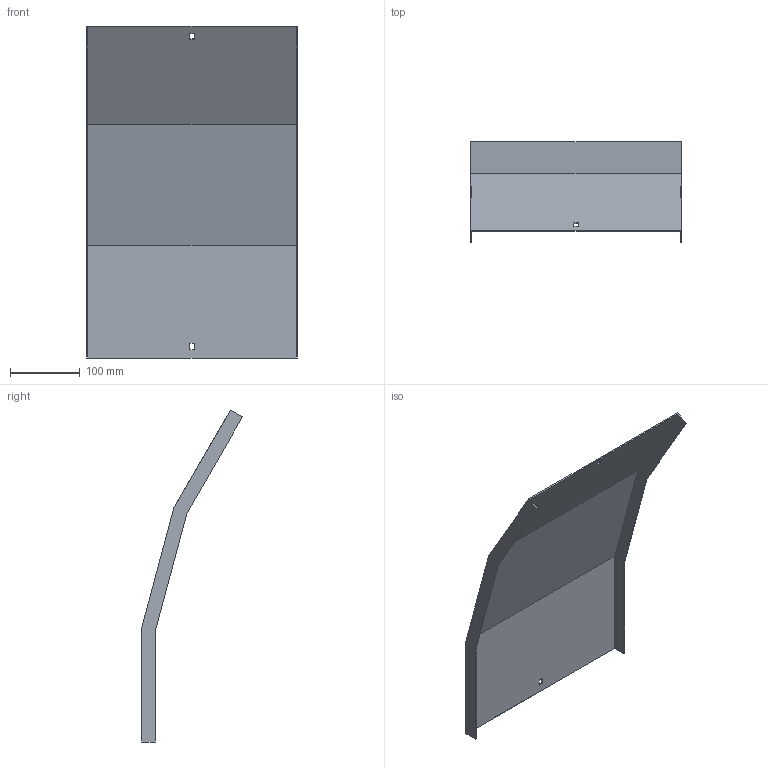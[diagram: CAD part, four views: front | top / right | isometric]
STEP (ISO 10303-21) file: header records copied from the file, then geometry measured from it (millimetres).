
FILE_DESCRIPTION (( 'STEP AP214' ), '1' );
FILE_NAME ('A2_35N3C300.step', '2025-02-21T10:30:10', ( '' ), ( '' ), 'SwSTEP 2.0', 'SolidWorks 2023', '' );
FILE_SCHEMA (( 'AUTOMOTIVE_DESIGN' ));
Length unit declared in the file: millimetre
Products named in the file (1): A2_35N3C300
Bounding box: 303 x 145.29 x 477.6 mm (x, y, z)
Volume: 257152.2 mm3; surface area: 345468.8 mm2
Topology: 1 solids, 1 shells, 26 faces, 72 edges, 48 vertices
Faces by surface type: plane 26
Entity records: 847 total; most frequent: CARTESIAN_POINT 147, ORIENTED_EDGE 144, DIRECTION 126, EDGE_CURVE 72, LINE 72, VECTOR 72, VERTEX_POINT 48, EDGE_LOOP 30
